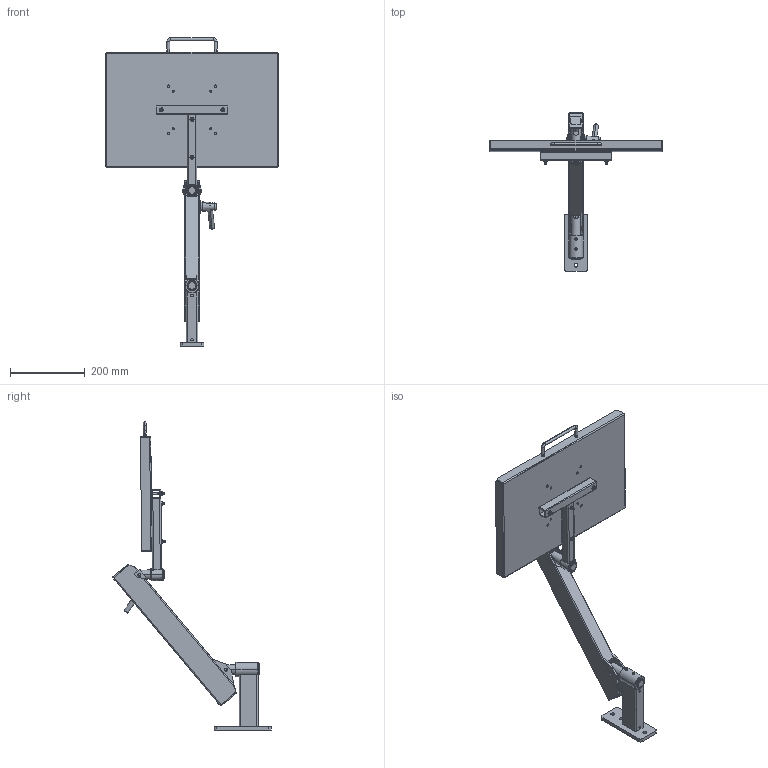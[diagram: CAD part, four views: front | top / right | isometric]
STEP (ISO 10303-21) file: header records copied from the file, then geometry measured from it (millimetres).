
FILE_DESCRIPTION (( 'STEP AP203' ), '1' );
FILE_NAME ('70-0743-00 REV AA, 13.5in FLEX SYSTEM, TOOL TRAY, WALL MOUNT W EXT - ANGLE UP.STEP', '2025-09-17T22:49:07', ( '' ), ( '' ), 'SwSTEP 2.0', 'SolidWorks 2025', '' );
FILE_SCHEMA (( 'CONFIG_CONTROL_DESIGN' ));
Length unit declared in the file: inch
Products named in the file (52): 004-050-00, WASHER, FIBER, .032 THK, .265ID; 71-0091-RX REV AA, HOUSING, WALL MOUNT, 6in EXTENSION; 71-1051-RX REV AA, SPRING BLOCK; 71-0972-99 REV AA, END CAP, FLEX; 71-1301-BLKX REV AA, FLEX HOUSING, 13.5in, BLACK_Weld; 11-0450-00 REV AA, FOAM, YELLOW, 18x12; 71-1300-RX REV AA, HOUSING, 13.5in FLEX; 006-008-00, NUT, HEX, 10-32 x .125_006-008-00; 011-020-00 REV AA, PIN, KNURLED, 1.0LG x .25OD; 016-070-00, BEARING, PLASTIC, .5ID x .625 OD x .75; 71-0029-RX REV AA, TAB, LOAD; 70-1343-00 REV AA, FLEX SECTION, 13.5in, 18-43 LB; 007-036-00, SHSS, 1''4-28, .25L_007-036-00; 011-033-00; 71-0038-RX REV AA, PIVOT, KNUCKLE, ELECTROLESS NICKEL; 71-0031-RX REV AA, KNUCKLE, MOUNT_MACHINE; 013-036-00, SPRING, GREEN, 1x8_ISO425203; 71-0070-RX REV AA, AXLE PIN, SHORT; 006-004-00_006-004-00; 71-0028-RX REV AA, TAB, MOUNT_MACHINE; 016-008-00, OILITE PLUS BEARING, 0.876 id x 1.002 od x 1.25 lg; 11-0027-RX REV AA, PLASTIC DISC, BRAKE ASSEMBLY_MACHINE; 025-067-00, HANDLE, U SHAPED, 8-32; 005-084-00, BOLT, 1''4-20x2.75; 70-0743-00 REV AA, 13.5in FLEX SYSTEM, TOOL TRAY, WALL MOUNT W EXT - ANGLE UP; 70-0095-00 REV AA, STUD MOUNT, 6in EXT; 70-0401-00 REV AA, 18x12 SUPPORT TRAY ASSEMBLY; 11-0602-RX REV AA, HANDLE, BRAKE ASSEMBLY; 70-0050-00 REV AA, T BAR; 002-041-00_002-041-00; 71-2113-RX REV AA, HOUSING, BEARING, TALL, 1.5OD_MACHINE; 010-012-00, RETAINING RING, EXTERNAL, .875in SHAFT; 11-0401-00 REV AA, 18x12 TOOL TRAY, BLACK; 002-091-00, FHSCS, 10-32x1.5, BO_002-091-00; 71-0047-RX REV AA, HOUSING, T AND STRAIGHT BAR_MACHINE; 016-007-00, OILITE PLUS BEARING, 0.876 id x 1.002 od x 0.75 lg; 71-1033-RX REV AA, BOLT, ADJUSTING, 10.9; 71-0071-RX REV AA, AXLE PIN, LONG; 11-0650-00 REV AA, BRAKE HANDLE ASSEMBLY; 002-100-00, BHSCS, 8-32x.375_002-100-00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
Assembly tree (80 placements, depth 4):
  70-0743-00 REV AA, 13.5in FLEX SYSTEM, TOOL TRAY, WALL MOUNT W EXT - ANGLE UP
    70-0095-00 REV AA, STUD MOUNT, 6in EXT
      71-0217-RX REV AA, PLATE, NARROW WALL MOUNT_Laser
      71-0091-RX REV AA, HOUSING, WALL MOUNT, 6in EXTENSION
      71-2113-RX REV AA, HOUSING, BEARING, TALL, 1.5OD_MACHINE
      016-007-00, OILITE PLUS BEARING, 0.876 id x 1.002 od x 0.75 lg
      016-008-00, OILITE PLUS BEARING, 0.876 id x 1.002 od x 1.25 lg
      007-036-00, SHSS, 1''4-28, .25L_007-036-00
    70-0401-00 REV AA, 18x12 SUPPORT TRAY ASSEMBLY
      11-0401-00 REV AA, 18x12 TOOL TRAY, BLACK
      70-0050-00 REV AA, T BAR
        71-0047-RX REV AA, HOUSING, T AND STRAIGHT BAR_MACHINE
        71-0013-RX REV AA, HOUSING, BEARING, SHORT_MACHINE
        71-0052-RX REV AA, HOUSING, T AND STRAIGHT BAR CROSS SECTION_MACHINE
        016-008-00, OILITE PLUS BEARING, 0.876 id x 1.002 od x 1.25 lg
        007-031-00_007-031-00
      002-091-00, FHSCS, 10-32x1.5, BO_002-091-00  x4
      006-008-00, NUT, HEX, 10-32 x .125_006-008-00  x4
      025-067-00, HANDLE, U SHAPED, 8-32
      002-100-00, BHSCS, 8-32x.375_002-100-00  x2
      11-0450-00 REV AA, FOAM, YELLOW, 18x12
    70-1343-00 REV AA, FLEX SECTION, 13.5in, 18-43 LB
      71-0031-RX REV AA, KNUCKLE, MOUNT_MACHINE
      71-1032-RX REV AA, SPRING ROD, 13.5in FLEX
      71-0030-RX REV AA, KNUCKLE, LOAD_MACHINE
      71-0038-RX REV AA, PIVOT, KNUCKLE, ELECTROLESS NICKEL
      71-1033-RX REV AA, BOLT, ADJUSTING, 10.9
      71-0037-RX REV AA, PIVOT, THREADED
      71-0040-RX REV AA, BRAKE BLOCK, WIDE_MACHINE
      71-1051-RX REV AA, SPRING BLOCK
      71-1301-BLKX REV AA, FLEX HOUSING, 13.5in, BLACK_Weld
        71-1300-RX REV AA, HOUSING, 13.5in FLEX
        71-0029-RX REV AA, TAB, LOAD  x2
        71-0028-RX REV AA, TAB, MOUNT_MACHINE  x2
      71-0070-RX REV AA, AXLE PIN, SHORT
      71-0071-RX REV AA, AXLE PIN, LONG
      71-0972-99 REV AA, END CAP, FLEX  x2
      11-0027-RX REV AA, PLASTIC DISC, BRAKE ASSEMBLY_MACHINE
      11-0650-00 REV AA, BRAKE HANDLE ASSEMBLY
        11-0601-99 REV AA, CONICAL KNOB, BRAKE ASSEMBLY
        11-0602-RX REV AA, HANDLE, BRAKE ASSEMBLY
        11-0027-RX REV AA, PLASTIC DISC, BRAKE ASSEMBLY_MACHINE
        005-084-00, BOLT, 1''4-20x2.75
      006-004-00_006-004-00  x2
      002-041-00_002-041-00  x2
      010-012-00, RETAINING RING, EXTERNAL, .875in SHAFT  x2
      010-011-00, RETAINING RING, EXT, .250 SHAFT_010-011-00  x4
      011-033-00
      004-050-00, WASHER, FIBER, .032 THK, .265ID  x8
      011-020-00 REV AA, PIN, KNURLED, 1.0LG x .25OD  x2
      004-144-00  x3
      006-059-00
      013-036-00, SPRING, GREEN, 1x8_ISO425203
      016-070-00, BEARING, PLASTIC, .5ID x .625 OD x .75  x2
Bounding box: 461.77 x 423.04 x 824.58 mm (x, y, z)
Volume: 1632273.5 mm3; surface area: 1131969.3 mm2
Topology: 76 solids, 76 shells, 2048 faces, 4981 edges, 3079 vertices
Faces by surface type: cylinder 908, plane 567, cone 418, torus 89, bspline 56, sphere 10
Entity records: 90184 total; most frequent: CARTESIAN_POINT 54446, ORIENTED_EDGE 6194, DIRECTION 6101, EDGE_CURVE 3097, AXIS2_PLACEMENT_3D 2356, VERTEX_POINT 1925, EDGE_LOOP 1422, VECTOR 1389
